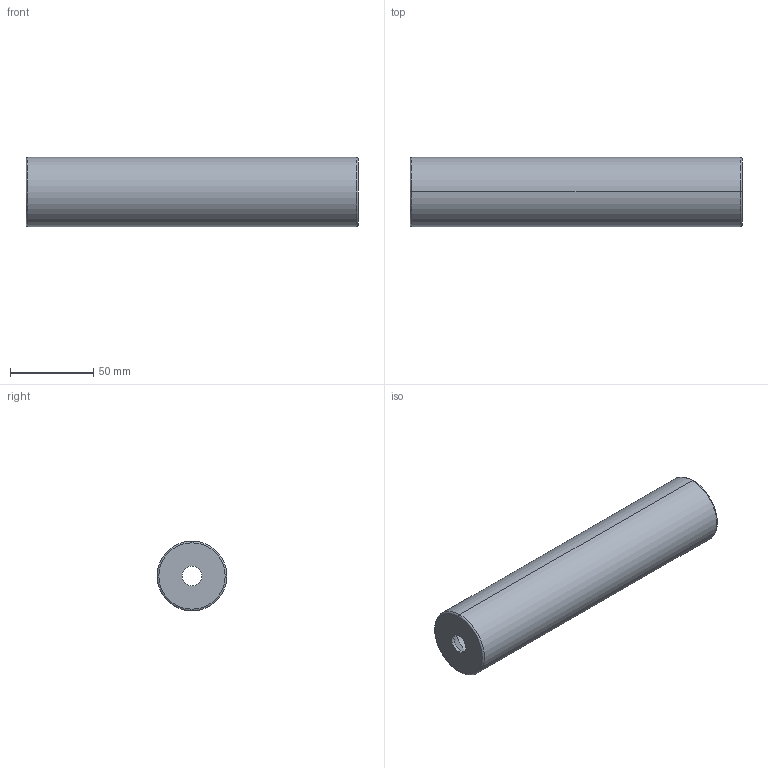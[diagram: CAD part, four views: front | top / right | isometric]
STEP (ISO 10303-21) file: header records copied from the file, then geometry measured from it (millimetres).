
FILE_DESCRIPTION (( 'STEP AP214' ), '1' );
FILE_NAME ('BR20 42x200.STEP', '2020-01-21T11:36:13', ( 'August' ), ( '' ), 'SwSTEP 2.0', 'SolidWorks 2018', '' );
FILE_SCHEMA (( 'AUTOMOTIVE_DESIGN' ));
Length unit declared in the file: millimetre
Products named in the file (1): BR20 42x200
Bounding box: 200 x 42 x 42 mm (x, y, z)
Volume: 102106.5 mm3; surface area: 49198.8 mm2
Topology: 1 solids, 1 shells, 14 faces, 28 edges, 16 vertices
Faces by surface type: cylinder 6, torus 4, cone 2, plane 2
Entity records: 406 total; most frequent: DIRECTION 78, CARTESIAN_POINT 59, ORIENTED_EDGE 56, AXIS2_PLACEMENT_3D 35, EDGE_CURVE 28, CIRCLE 20, VERTEX_POINT 16, EDGE_LOOP 16
